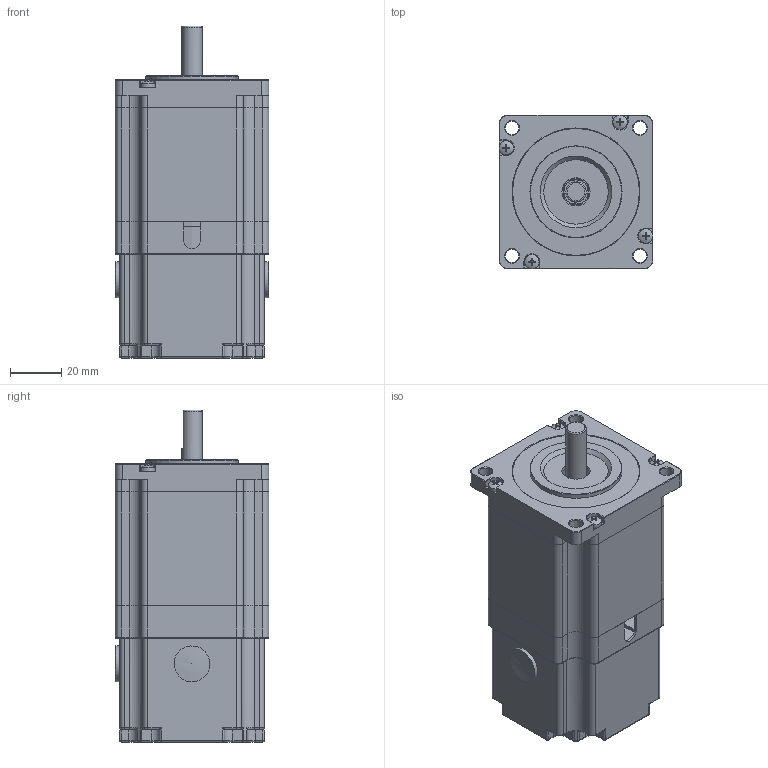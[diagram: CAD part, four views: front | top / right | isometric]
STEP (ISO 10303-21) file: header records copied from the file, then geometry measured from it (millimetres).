
FILE_DESCRIPTION (( 'STEP AP203' ), '1' );
FILE_NAME ('YK60HB65-05A-SC.STEP', '2020-01-03T07:42:59', ( '' ), ( '' ), 'SwSTEP 2.0', 'SolidWorks 2014', '' );
FILE_SCHEMA (( 'CONFIG_CONTROL_DESIGN' ));
Length unit declared in the file: millimetre
Products named in the file (21): 57BK-綴欶; 隅赽; 粣; 坋趼羞攫芛蹟隊; 57BK-橡胶塞; 綴裔; YK60HB65-05A-SC; ヶ裔; 57BK
Assembly tree (13 placements, depth 3):
  隅赽
  坋趼羞攫芛蹟隊
  坋趼羞攫芛蹟隊
  坋趼羞攫芛蹟隊
  YK60HB65-05A-SC
    ヶ裔
    綴裔
    隅赽
    粣
    坋趼羞攫芛蹟隊  x4
    57BK
      57BK-綴欶
      57BK-橡胶塞  x3
Bounding box: 60.1 x 60.1 x 129.8 mm (x, y, z)
Volume: 171122.4 mm3; surface area: 79588.3 mm2
Topology: 12 solids, 12 shells, 1542 faces, 3284 edges, 1763 vertices
Faces by surface type: cone 983, plane 237, cylinder 213, torus 62, bspline 27, sphere 20
Full cylindrical faces by diameter (mm): 2.5 x4, 2.598 x4, 3 x4, 3.2 x4, 3.5 x8, 4 x4, 5.2 x4, 5.6 x4, 6 x4, 6.5 x1, 8 x2, 9 x3, 10 x1, 11 x2, 11.5 x3, 12 x3, 14 x3, 22 x2, 26 x2, 36 x1, 39 x3, 39.6 x2
Entity records: 21710 total; most frequent: CARTESIAN_POINT 3995, DIRECTION 3531, ORIENTED_EDGE 2702, AXIS2_PLACEMENT_3D 1484, EDGE_CURVE 1351, EDGE_LOOP 1168, VERTEX_POINT 951, FACE_OUTER_BOUND 823
